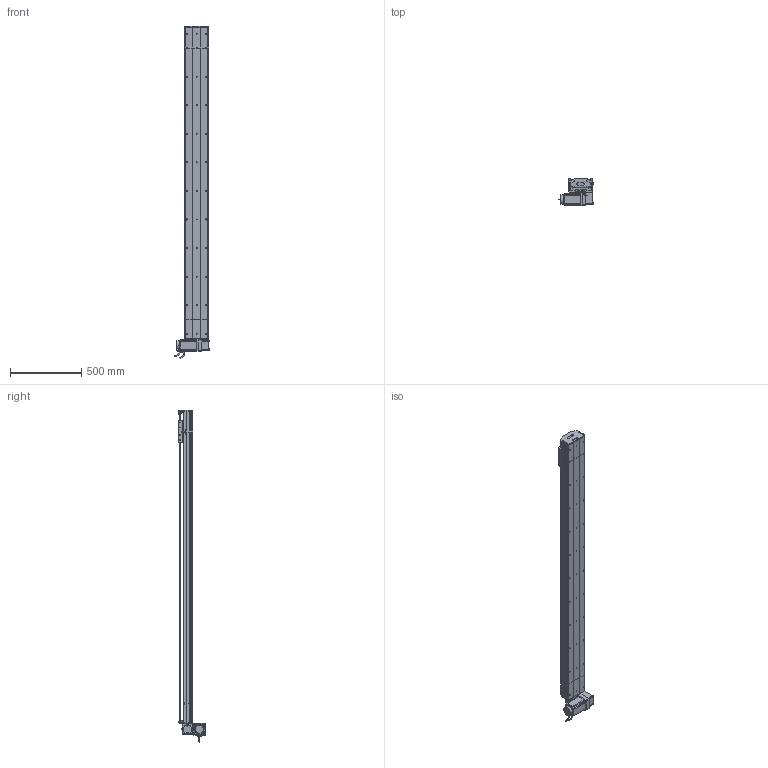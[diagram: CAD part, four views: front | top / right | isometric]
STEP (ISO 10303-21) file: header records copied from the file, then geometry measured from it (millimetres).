
FILE_DESCRIPTION (( 'STEP AP214' ), '1' );
FILE_NAME ('D17 TBH LU S1900.STEP', '2010-06-30T08:21:34', ( 'Christophe Gaillard' ), ( 'SGA' ), 'SwSTEP 2.0', 'SolidWorks 2010', '' );
FILE_SCHEMA (( 'AUTOMOTIVE_DESIGN' ));
Length unit declared in the file: millimetre
Products named in the file (40): Moteur motionking 90BLDC125A-640; Renvoi LU_Default; vis M5 L5_Default; cache arbre D17_Default; couroie head D17_Default; poulie head_Default; cache D17_Default; course 1900 D17B_Default; Couroie+ rail D17 Course 1900 ; Arbre+rail head D17B; plaque de  bout head D17B LU_Default; couvercle D17B head_Default; corp D17B 1900_Default; corpl head D17 _Default; Head LU D17B_Default; couvercle D17B course L1900_Default; vis M5 L12_Default; Conecteur2_Default; codeur 90BLDC125-640; corps 90BLDC125A-640; avant 90BLDC125A-640; Plaque racord D17_Default; vis M5 L70_Default; Conecteur_Default; Tail D17B+100_Default; Vis M5 L16-2_Default; vis M5 L16_Default; Rail D17B; tete d''axe poulie D17B; corp tail D17B+100_Default; Couroie tail D17B_Default; poulie tail_Default; plaque de  bout tail D17B_Default; vis M5 L25_Default; vis M5 L8 90°_Default; couvercle D17B_Default; guide D17; Chariot D17; chariot D17S_Default; D17 TBH LU S1900
Assembly tree (70 placements, depth 4):
  D17 TBH LU S1900
    course 1900 D17B_Default
      couvercle D17B course L1900_Default
      corp D17B 1900_Default
      Couroie+ rail D17 Course 1900 
    chariot D17S_Default
      vis M5 L12_Default  x4
      guide D17  x2
      Chariot D17
    Head LU D17B_Default
      vis M5 L12_Default  x8
      Vis M5 L16-2_Default  x4
      cache D17_Default  x2
      vis M5 L70_Default  x4
      poulie head_Default
      corpl head D17 _Default
      Plaque racord D17_Default
      Renvoi LU_Default
      couroie head D17_Default
      Arbre+rail head D17B
      Moteur motionking 90BLDC125A-640
        corps 90BLDC125A-640
        Conecteur_Default
        Conecteur2_Default
        codeur 90BLDC125-640
        avant 90BLDC125A-640
      cache arbre D17_Default
      vis M5 L16_Default  x2
      vis M5 L5_Default  x4
      couvercle D17B head_Default
      vis M5 L25_Default  x2
      plaque de  bout head D17B LU_Default
    Tail D17B+100_Default
      Couroie tail D17B_Default
      vis M5 L8 90°_Default  x2
      tete d''axe poulie D17B
      vis M5 L12_Default  x4
      vis M5 L25_Default  x2
      couvercle D17B_Default
      Rail D17B
      plaque de  bout tail D17B_Default
      poulie tail_Default
      corp tail D17B+100_Default
Bounding box: 245.2 x 188.65 x 2323.95 mm (x, y, z)
Volume: 13802392.1 mm3; surface area: 3956280 mm2
Topology: 94 solids, 94 shells, 2717 faces, 6883 edges, 4430 vertices
Faces by surface type: plane 1611, cylinder 793, bspline 136, cone 88, torus 85, sphere 4
Entity records: 85474 total; most frequent: CARTESIAN_POINT 25183, ORIENTED_EDGE 10538, DIRECTION 9990, EDGE_CURVE 5269, LINE 3488, VECTOR 3488, VERTEX_POINT 3454, AXIS2_PLACEMENT_3D 3251
